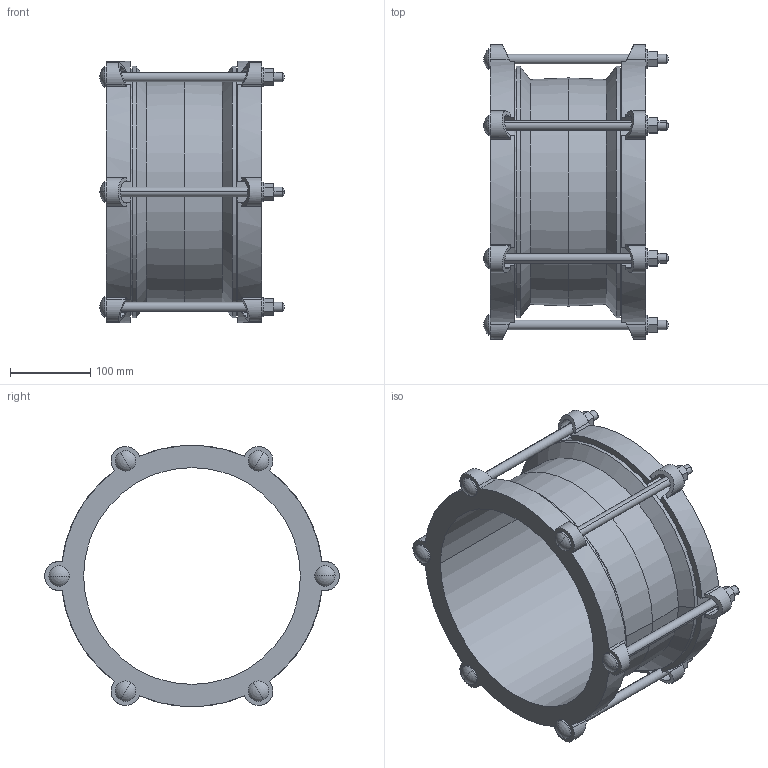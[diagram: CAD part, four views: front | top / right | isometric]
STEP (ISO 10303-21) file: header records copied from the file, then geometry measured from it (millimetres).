
FILE_DESCRIPTION((''),'2;1');
FILE_NAME('BIM_12393_11','2018-09-07T',('MReader'),(''),'CREO PARAMETRIC BY PTC INC, 2016130','CREO PARAMETRIC BY PTC INC, 2016130','');
FILE_SCHEMA(('CONFIG_CONTROL_DESIGN'));
Length unit declared in the file: millimetre
Products named in the file (1): BIM_12393_11
Bounding box: 230.33 x 367.5 x 326 mm (x, y, z)
Volume: 2801495.2 mm3; surface area: 532347.6 mm2
Topology: 1 solids, 1 shells, 286 faces, 776 edges, 494 vertices
Faces by surface type: plane 148, cylinder 94, sphere 24, cone 20
Entity records: 9280 total; most frequent: CARTESIAN_POINT 2024, DIRECTION 1518, ORIENTED_EDGE 1504, EDGE_CURVE 752, AXIS2_PLACEMENT_3D 552, VERTEX_POINT 494, VECTOR 414, LINE 414
